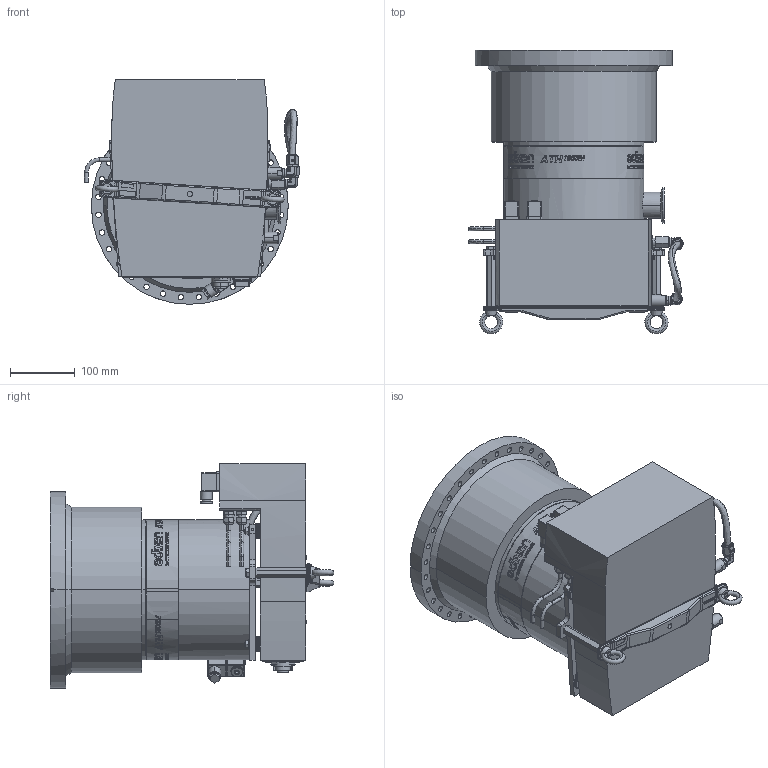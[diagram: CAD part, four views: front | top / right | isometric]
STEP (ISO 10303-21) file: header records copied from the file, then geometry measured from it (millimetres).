
FILE_DESCRIPTION((''),'2;1');
FILE_NAME('ENV-ATH1603M-GEN','2017-02-17T',('RCRIADO'),(''),'PRO/ENGINEER BY PARAMETRIC TECHNOLOGY CORPORATION, 2015280','PRO/ENGINEER BY PARAMETRIC TECHNOLOGY CORPORATION, 2015280','');
FILE_SCHEMA(('CONFIG_CONTROL_DESIGN'));
Products named in the file (1): ENV-ATH1603M-GEN
Bounding box: 332.93 x 439.15 x 347.85 mm (x, y, z)
Volume: 20530468.5 mm3; surface area: 875783.6 mm2
Topology: 1 solids, 12 shells, 4995 faces, 13200 edges, 8504 vertices
Faces by surface type: plane 1803, bspline 1306, cylinder 1211, cone 511, torus 114, sphere 40, extrusion 10
Entity records: 190471 total; most frequent: CARTESIAN_POINT 75907, ORIENTED_EDGE 26336, DIRECTION 19649, EDGE_CURVE 13168, VERTEX_POINT 8504, AXIS2_PLACEMENT_3D 6909, VECTOR 5831, LINE 5821
